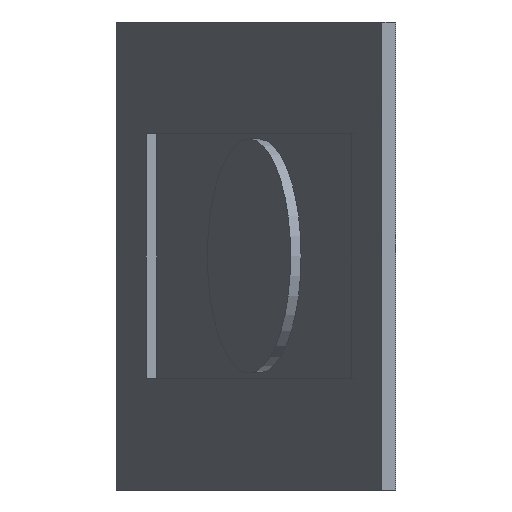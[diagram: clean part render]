
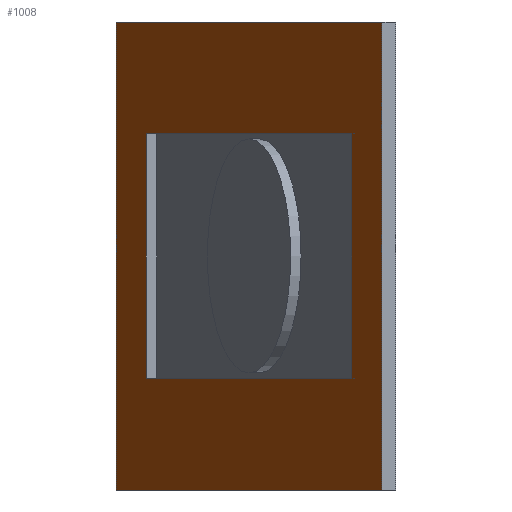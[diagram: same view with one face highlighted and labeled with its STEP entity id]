
A CAD part, front view. The second image highlights one B-rep face of the part: STEP entity #1008.
In plain terms, the highlighted planar face has unit normal (-0.935, -0.355, 0).
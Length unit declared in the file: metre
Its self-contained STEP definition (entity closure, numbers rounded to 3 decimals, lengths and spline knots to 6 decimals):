
#80=ORIENTED_EDGE('',*,*,#352,.F.);
#81=ORIENTED_EDGE('',*,*,#353,.F.);
#82=ORIENTED_EDGE('',*,*,#354,.T.);
#83=ORIENTED_EDGE('',*,*,#337,.T.);
#84=ORIENTED_EDGE('',*,*,#355,.F.);
#85=ORIENTED_EDGE('',*,*,#356,.T.);
#86=ORIENTED_EDGE('',*,*,#357,.T.);
#87=ORIENTED_EDGE('',*,*,#358,.F.);
#337=EDGE_CURVE('',#474,#472,#567,.T.);
#352=EDGE_CURVE('',#488,#472,#580,.T.);
#353=EDGE_CURVE('',#489,#488,#581,.T.);
#354=EDGE_CURVE('',#489,#474,#582,.T.);
#355=EDGE_CURVE('',#490,#491,#583,.T.);
#356=EDGE_CURVE('',#490,#492,#584,.T.);
#357=EDGE_CURVE('',#492,#493,#585,.T.);
#358=EDGE_CURVE('',#491,#493,#586,.T.);
#472=VERTEX_POINT('',#1490);
#474=VERTEX_POINT('',#1493);
#488=VERTEX_POINT('',#1523);
#489=VERTEX_POINT('',#1525);
#490=VERTEX_POINT('',#1528);
#491=VERTEX_POINT('',#1529);
#492=VERTEX_POINT('',#1531);
#493=VERTEX_POINT('',#1533);
#567=LINE('',#1492,#683);
#580=LINE('',#1522,#696);
#581=LINE('',#1524,#697);
#582=LINE('',#1526,#698);
#583=LINE('',#1527,#699);
#584=LINE('',#1530,#700);
#585=LINE('',#1532,#701);
#586=LINE('',#1534,#702);
#683=VECTOR('',#1193,1.);
#696=VECTOR('',#1212,1.);
#697=VECTOR('',#1213,1.);
#698=VECTOR('',#1214,1.);
#699=VECTOR('',#1215,1.);
#700=VECTOR('',#1216,1.);
#701=VECTOR('',#1217,1.);
#702=VECTOR('',#1218,1.);
#788=EDGE_LOOP('',(#80,#81,#82,#83));
#789=EDGE_LOOP('',(#84,#85,#86,#87));
#876=FACE_BOUND('',#788,.T.);
#877=FACE_BOUND('',#789,.T.);
#956=PLANE('',#1087);
#1008=ADVANCED_FACE('',(#876,#877),#956,.T.);
#1087=AXIS2_PLACEMENT_3D('',#1521,#1210,#1211);
#1193=DIRECTION('',(0.,0.,-1.));
#1210=DIRECTION('',(-0.935,-0.355,0.));
#1211=DIRECTION('',(0.355,-0.935,0.));
#1212=DIRECTION('',(-0.355,0.935,0.));
#1213=DIRECTION('',(0.,0.,-1.));
#1214=DIRECTION('',(-0.355,0.935,0.));
#1215=DIRECTION('',(0.355,-0.935,0.));
#1216=DIRECTION('',(0.,0.,1.));
#1217=DIRECTION('',(0.355,-0.935,0.));
#1218=DIRECTION('',(0.,0.,1.));
#1490=CARTESIAN_POINT('',(-0.076097,0.003397,0.0509));
#1492=CARTESIAN_POINT('',(-0.076097,0.003397,0.1179));
#1493=CARTESIAN_POINT('',(-0.076097,0.003397,0.1179));
#1521=CARTESIAN_POINT('',(-0.057097,-0.046603,0.1179));
#1522=CARTESIAN_POINT('',(-0.057097,-0.046603,0.0509));
#1523=CARTESIAN_POINT('',(-0.038097,-0.096603,0.0509));
#1524=CARTESIAN_POINT('',(-0.038097,-0.096603,0.1179));
#1525=CARTESIAN_POINT('',(-0.038097,-0.096603,0.1179));
#1526=CARTESIAN_POINT('',(-0.057097,-0.046603,0.1179));
#1527=CARTESIAN_POINT('',(-0.057097,-0.046603,0.0669));
#1528=CARTESIAN_POINT('',(-0.071834,-0.007821,0.0669));
#1529=CARTESIAN_POINT('',(-0.042359,-0.085386,0.0669));
#1530=CARTESIAN_POINT('',(-0.071834,-0.007821,0.0844));
#1531=CARTESIAN_POINT('',(-0.071834,-0.007821,0.1019));
#1532=CARTESIAN_POINT('',(-0.057097,-0.046603,0.1019));
#1533=CARTESIAN_POINT('',(-0.042359,-0.085386,0.1019));
#1534=CARTESIAN_POINT('',(-0.042359,-0.085386,0.0844));
